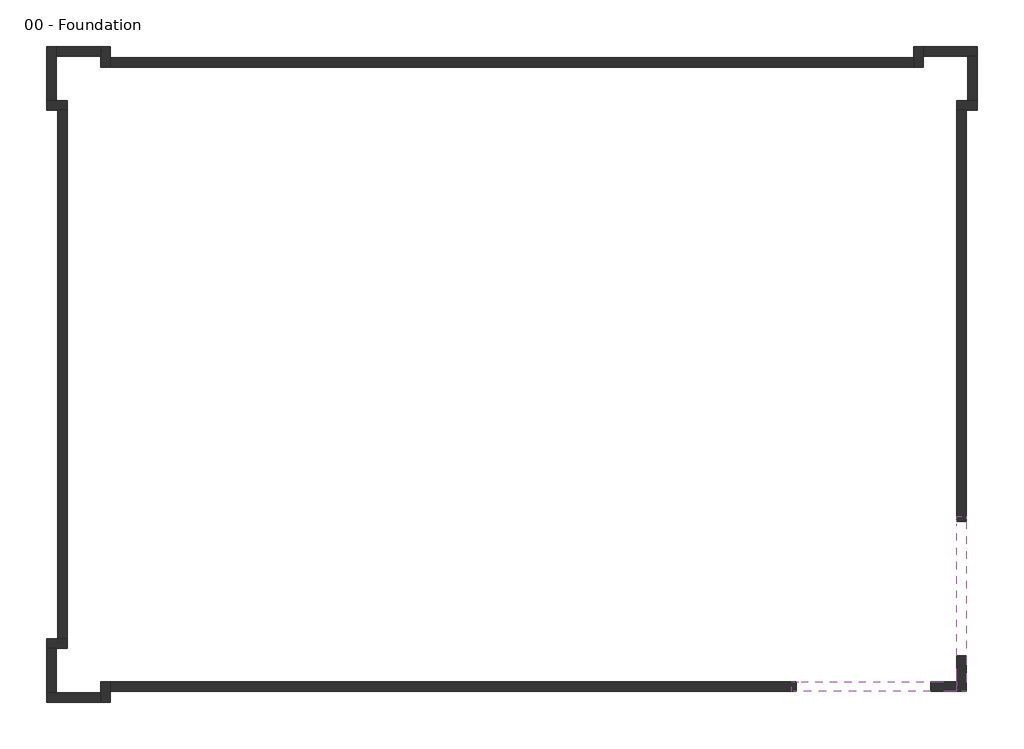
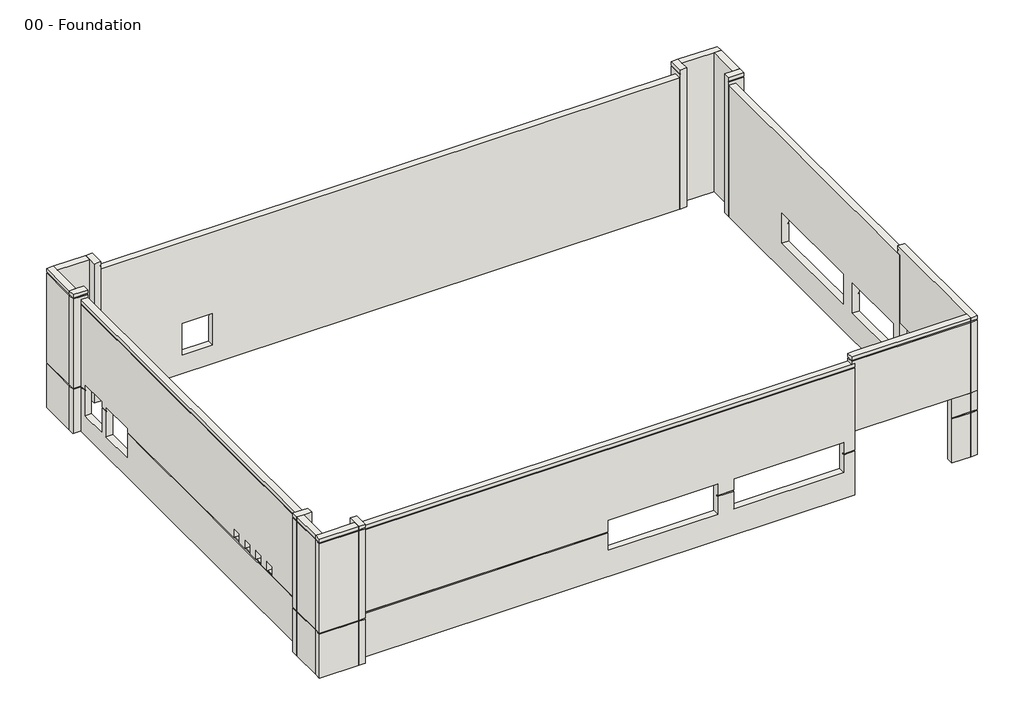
# One storey: 20 walls.
"""IFC4 building model written with IfcOpenShell, lengths in millimetres."""

import ifcopenshell
import ifcopenshell.guid

model = None  # the IFC model being written
_history = None  # IfcOwnerHistory: only IFC2X3 demands one
_inside = {}  # id of a spatial element -> (the spatial element, [elements in it])
_under = {}  # id of a project, library or spatial element -> (it, [spatial elements below it])
_declared = {}  # id of a project -> (the project, [libraries it declares])
_typed = {}  # id of a type object -> (the type object, [elements of that type])
_made_of = {}  # id of a material, layer set ... -> (it, [elements and type objects made of it])


def new_model(schema):
    """Start an empty IFC model of exactly this schema.

    Asked for "IFC4X3", IfcOpenShell would pick the latest addendum, in which some entities
    have other attributes; the version numbers below select the first issue.
    IFC2X3 requires an IfcOwnerHistory on every rooted entity: one is made here for all.
    """
    global model, _history
    if schema == "IFC4X3":
        model = ifcopenshell.file(schema_version=(4, 3, 0, 0))
    else:
        model = ifcopenshell.file(schema=schema)
    _inside.clear()
    _under.clear()
    _declared.clear()
    _typed.clear()
    _made_of.clear()
    _history = None
    if model.schema == "IFC2X3":
        org = make("IfcOrganization", Name="unknown")
        user = make(
            "IfcPersonAndOrganization",
            ThePerson=make("IfcPerson", FamilyName="unknown"),
            TheOrganization=org,
        )
        app = make(
            "IfcApplication",
            ApplicationDeveloper=org,
            Version="unknown",
            ApplicationFullName="unknown",
            ApplicationIdentifier="unknown",
        )
        _history = make(
            "IfcOwnerHistory",
            OwningUser=user,
            OwningApplication=app,
            ChangeAction="ADDED",
            CreationDate=0,
        )
    return model


def make(cls, **values):
    """One entity of the class cls with the attributes given. An attribute that is None is left unset."""
    return model.create_entity(
        cls, **{name: value for name, value in values.items() if value is not None}
    )


def rooted(cls, **values):
    """An entity with a GlobalId (a new one), such as an element, a storey or a relation."""
    return make(cls, GlobalId=ifcopenshell.guid.new(), OwnerHistory=_history, **values)


def si_unit(unit_type, name, prefix=None):
    """IfcSIUnit, for example si_unit("LENGTHUNIT", "METRE", prefix="MILLI")."""
    return make("IfcSIUnit", UnitType=unit_type, Prefix=prefix, Name=name)


def assignment(units):
    """IfcUnitAssignment: the units of a project."""
    return None if units is None else make("IfcUnitAssignment", Units=units)


def point(xyz):
    """IfcCartesianPoint."""
    return None if xyz is None else make("IfcCartesianPoint", Coordinates=xyz)


def direction(xyz):
    """IfcDirection."""
    return None if xyz is None else make("IfcDirection", DirectionRatios=xyz)


def frame(location, z_axis=None, x_axis=None):
    """IfcAxis2Placement3D, a coordinate frame: its origin and axes. An axis left out is left unset."""
    return make(
        "IfcAxis2Placement3D",
        Location=point(location),
        Axis=direction(z_axis),
        RefDirection=direction(x_axis),
    )


def origin():
    """The frame at (0, 0, 0) with its axes left unset."""
    return frame((0.0, 0.0, 0.0))


def place(relative_to, where):
    """IfcLocalPlacement: puts the frame where relative to a parent placement (None: the world)."""
    return make(
        "IfcLocalPlacement", PlacementRelTo=relative_to, RelativePlacement=where
    )


def context(
    kind, dimensions, precision=None, world=None, true_north=None, identifier=None
):
    """IfcGeometricRepresentationContext, for example the 3D "Model" context."""
    return make(
        "IfcGeometricRepresentationContext",
        ContextIdentifier=identifier,
        ContextType=kind,
        CoordinateSpaceDimension=dimensions,
        Precision=precision,
        WorldCoordinateSystem=world,
        TrueNorth=true_north,
    )


def project(units=None, contexts=None):
    """IfcProject with its units and contexts."""
    return rooted(
        "IfcProject",
        Name="project",
        RepresentationContexts=contexts,
        UnitsInContext=assignment(units),
    )


def spatial(cls, under=None, at=None, **own):
    """A site, building, storey or space (cls), placed at a placement, below another one or the project."""
    s = rooted(cls, ObjectPlacement=at, **own)
    if under is not None:
        _under.setdefault(under.id(), (under, []))[1].append(s)
    return s


def polyline(points):
    """IfcPolyline through the points."""
    return make("IfcPolyline", Points=[point(p) for p in points])


def outline(outer, holes=None, kind="AREA"):
    """IfcArbitraryClosedProfileDef: a profile drawn as a closed curve; with holes, ...WithVoids."""
    if holes is None:
        return make("IfcArbitraryClosedProfileDef", ProfileType=kind, OuterCurve=outer)
    return make(
        "IfcArbitraryProfileDefWithVoids",
        ProfileType=kind,
        OuterCurve=outer,
        InnerCurves=holes,
    )


def extrude(swept, where, along, depth):
    """IfcExtrudedAreaSolid: the profile swept, set in the frame where, extruded along a direction by depth."""
    return make(
        "IfcExtrudedAreaSolid",
        SweptArea=swept,
        Position=where,
        ExtrudedDirection=direction(along),
        Depth=depth,
    )


def faces_of(points, faces, orient=None, outer=None):
    """IfcFace entities. A face is a list of loops; a loop is a list of indices into points, from 0.

    orient and outer hold one flag for each loop. By default every Orientation is true, the
    first loop of a face is its IfcFaceOuterBound and the others are IfcFaceBound.
    """
    made = []
    for i, loops in enumerate(faces):
        bounds = []
        for j, loop in enumerate(loops):
            is_outer = j == 0 if outer is None else outer[i][j]
            bounds.append(
                make(
                    "IfcFaceOuterBound" if is_outer else "IfcFaceBound",
                    Bound=make("IfcPolyLoop", Polygon=[points[k] for k in loop]),
                    Orientation=True if orient is None else orient[i][j],
                )
            )
        made.append(make("IfcFace", Bounds=bounds))
    return made


def faceted_brep(points, faces, orient=None, outer=None, voids=None):
    """IfcFacetedBrep: a solid bounded by flat faces; with voids (closed shells), ...WithVoids."""
    shared = [point(p) for p in points]
    hull = make("IfcClosedShell", CfsFaces=faces_of(shared, faces, orient, outer))
    if voids is None:
        return make("IfcFacetedBrep", Outer=hull)
    return make(
        "IfcFacetedBrepWithVoids",
        Outer=hull,
        Voids=[
            make(cls, CfsFaces=faces_of(shared, fs, o, b)) for cls, fs, o, b in voids
        ],
    )


def shape(context_of_items, identifier, shape_type, items):
    """IfcShapeRepresentation: the items that make up one representation, for example the "Body"."""
    return make(
        "IfcShapeRepresentation",
        ContextOfItems=context_of_items,
        RepresentationIdentifier=identifier,
        RepresentationType=shape_type,
        Items=items,
    )


def made_of(thing, what):
    """Note that an element or type object is made of a material, layer set ...; save() writes the relation."""
    if what is not None:
        _made_of.setdefault(what.id(), (what, []))[1].append(thing)
    return thing


def element(
    cls,
    number,
    at=None,
    inside=None,
    cuts=None,
    type_object=None,
    material=None,
    context=None,
    identifier="Body",
    shape_type=None,
    held_by="IfcProductDefinitionShape",
    body=None,
    shapes=None,
    **own,
):
    """One element of the class cls, such as IfcWall. Its Tag is "e" and its number.

    at: its placement. inside: the storey or other place that contains it. cuts: it is an
    opening in that element (IfcRelVoidsElement). A single representation is given by context,
    identifier, shape_type and body (its items); several are given by shapes. held_by: the class
    of the entity that holds the representations. save() writes the other relations.
    """
    e = rooted(cls, Tag="e%d" % number, ObjectPlacement=at, **own)
    if body is not None:
        shapes = [shape(context, identifier, shape_type, body)]
    if shapes is not None:
        e.Representation = make(held_by, Representations=shapes)
    if inside is not None:
        _inside.setdefault(inside.id(), (inside, []))[1].append(e)
    if cuts is not None:
        rooted(
            "IfcRelVoidsElement", RelatingBuildingElement=cuts, RelatedOpeningElement=e
        )
    if type_object is not None:
        _typed.setdefault(type_object.id(), (type_object, []))[1].append(e)
    return made_of(e, material)


def aggregate(whole, parts):
    """IfcRelAggregates: a whole, such as a stair, and the parts it consists of."""
    return rooted("IfcRelAggregates", RelatingObject=whole, RelatedObjects=parts)


def save(model, path):
    """Write the relations noted so far, then the file.

    IfcRelAggregates (storeys below a building ...), IfcRelContainedInSpatialStructure (elements
    in a storey), IfcRelDefinesByType, IfcRelAssociatesMaterial and IfcRelDeclares: one each for
    every whole, place, type object, material and project.
    """
    for whole, parts in _under.values():
        aggregate(whole, parts)
    for where, things in _inside.values():
        rooted(
            "IfcRelContainedInSpatialStructure",
            RelatedElements=things,
            RelatingStructure=where,
        )
    for kind, things in _typed.values():
        rooted("IfcRelDefinesByType", RelatedObjects=things, RelatingType=kind)
    for what, things in _made_of.values():
        rooted("IfcRelAssociatesMaterial", RelatedObjects=things, RelatingMaterial=what)
    for by, libraries in _declared.values():
        rooted("IfcRelDeclares", RelatingContext=by, RelatedDefinitions=libraries)
    model.write(path)


model = new_model("IFC4")

# Units and contexts
model_context = context("Model", 3, world=origin())
ifc_project = project(units=[si_unit("LENGTHUNIT", "METRE", prefix="MILLI")], contexts=[model_context])

# Site, building, storey
site = spatial("IfcSite", under=ifc_project)
building = spatial("IfcBuilding", under=site)
storey = spatial("IfcBuildingStorey", under=building, Name="00 - Foundation", Elevation=-1250.0)

# Walls
placement = place(None, origin())
element("IfcWall", 1, ObjectType="Exterior - Render on Brick on Block @ Entry", at=placement, inside=storey, context=model_context, shape_type="Brep", body=[
    faceted_brep([(18351.5272279, -6696.4313057, 3000.0), (18351.5272279, -12792.4313057, 3000.0), (18351.5272279, -13977.9313057, 3000.0), (18351.5272279, -14406.9313057, 3000.0), (18351.5272279, -14406.9313057, 7700.0), (18351.5272279, -14331.9313057, 7700.0), (18351.5272279, -14331.9313057, 7775.0), (18351.5272279, -14406.9313057, 7775.0), (18351.5272279, -14406.9313057, 8000.0), (18351.5272279, -13977.9313057, 8000.0), (18351.5272279, -6910.9313057, 8000.0), (18351.5272279, -6481.9313057, 8000.0), (18351.5272279, -6481.9313057, 7775.0), (18351.5272279, -6556.9313057, 7775.0), (18351.5272279, -6556.9313057, 7700.0), (18351.5272279, -6481.9313057, 7700.0), (18351.5272279, -6481.9313057, 7500.0), (18351.5272279, -6696.4313057, 7500.0), (18780.5272279, -6481.9313057, 8000.0), (18780.5272279, -14406.9313057, 8000.0), (18780.5272279, -14406.9313057, 7775.0), (18780.5272279, -6481.9313057, 7775.0), (18780.5272279, -14406.9313057, 3000.0), (18780.5272279, -12792.4313057, 3000.0), (18780.5272279, -6696.4313057, 3000.0), (18780.5272279, -6696.4313057, 7200.0), (18780.5272279, -6696.4313057, 7275.0), (18780.5272279, -6696.4313057, 7500.0), (18780.5272279, -6481.9313057, 7500.0), (18780.5272279, -6481.9313057, 7700.0), (18780.5272279, -14406.9313057, 7700.0), (18705.5272279, -6556.9313057, 7700.0), (18705.5272279, -6556.9313057, 7775.0), (18705.5272279, -14331.9313057, 7775.0), (18705.5272279, -14331.9313057, 7700.0)], [[[0, 1, 2, 3, 4, 5, 6, 7, 8, 9, 10, 11, 12, 13, 14, 15, 16, 17]], [[18, 19, 20, 21]], [[22, 23, 24, 25, 26, 27, 28, 29, 30]], [[3, 2, 1, 0, 24, 23, 22]], [[11, 10, 9, 8, 19, 18]], [[31, 32, 33, 34]], [[19, 8, 7, 20]], [[3, 22, 30, 4]], [[33, 32, 13, 12, 21, 20, 7, 6]], [[31, 34, 5, 4, 30, 29, 15, 14]], [[32, 31, 14, 13]], [[34, 33, 6, 5]], [[24, 0, 17, 27, 26, 25]], [[28, 27, 17, 16]], [[11, 18, 21, 12]], [[28, 16, 15, 29]]]),
])
element("IfcWall", 2, ObjectType="Exterior - Render on Brick on Block @ Entry", at=placement, inside=storey, context=model_context, shape_type="Brep", body=[
    faceted_brep([(18351.5272279, -13977.9313057, 3000.0), (17166.0272279, -13977.9313057, 3000.0), (11070.0272279, -13977.9313057, 3000.0), (11070.0272279, -13977.9313057, 7500.0), (10855.5272279, -13977.9313057, 7500.0), (10855.5272279, -13977.9313057, 7700.0), (10930.5272279, -13977.9313057, 7700.0), (10930.5272279, -13977.9313057, 7775.0), (10855.5272279, -13977.9313057, 7775.0), (10855.5272279, -13977.9313057, 8000.0), (11284.5272279, -13977.9313057, 8000.0), (18351.5272279, -13977.9313057, 8000.0), (18351.5272279, -14406.9313057, 8000.0), (10855.5272279, -14406.9313057, 8000.0), (10855.5272279, -14406.9313057, 7775.0), (18351.5272279, -14406.9313057, 7775.0), (11070.0272279, -14406.9313057, 3000.0), (17166.0272279, -14406.9313057, 3000.0), (18351.5272279, -14406.9313057, 3000.0), (18351.5272279, -14406.9313057, 7700.0), (10855.5272279, -14406.9313057, 7700.0), (10855.5272279, -14406.9313057, 7500.0), (11070.0272279, -14406.9313057, 7500.0), (11070.0272279, -14406.9313057, 7275.0), (11070.0272279, -14406.9313057, 7200.0), (18351.5272279, -14331.9313057, 7700.0), (18351.5272279, -14331.9313057, 7775.0), (10930.5272279, -14331.9313057, 7775.0), (10930.5272279, -14331.9313057, 7700.0)], [[[0, 1, 2, 3, 4, 5, 6, 7, 8, 9, 10, 11]], [[12, 13, 14, 15]], [[16, 17, 18, 19, 20, 21, 22, 23, 24]], [[2, 1, 0, 18, 17, 16]], [[11, 10, 9, 13, 12]], [[25, 26, 27, 28]], [[0, 11, 12, 15, 26, 25, 19, 18]], [[15, 14, 8, 7, 27, 26]], [[20, 19, 25, 28, 6, 5]], [[2, 16, 24, 23, 22, 3]], [[4, 3, 22, 21]], [[4, 21, 20, 5]], [[13, 9, 8, 14]], [[28, 27, 7, 6]]]),
])
element("IfcWall", 3, ObjectType="Exterior - Render on Brick on Block", at=placement, inside=storey, context=model_context, shape_type="Brep", body=[
    faceted_brep([(11070.0272279, -13977.9313057, -1250.0), (-20031.4727721, -13977.9313057, -1250.0), (-20031.4727721, -13977.9313057, 7500.0), (10855.5272279, -13977.9313057, 7500.0), (11070.0272279, -13977.9313057, 7500.0), (11070.0272279, -13977.9313057, 3000.0), (-4494.4727721, -13977.9313057, 2500.0), (-4494.4727721, -13977.9313057, 500.0), (2430.5272279, -13977.9313057, 500.0), (2430.5272279, -13977.9313057, 2500.0), (10355.5272279, -13977.9313057, 500.0), (10355.5272279, -13977.9313057, 2500.0), (3430.5272279, -13977.9313057, 2500.0), (3430.5272279, -13977.9313057, 500.0), (11070.0272279, -14406.9313057, 7500.0), (-20031.4727721, -14406.9313057, 7500.0), (-20031.4727721, -14406.9313057, 7275.0), (11070.0272279, -14406.9313057, 7275.0), (-20031.4727721, -14406.9313057, -1250.0), (11070.0272279, -14406.9313057, -1250.0), (11070.0272279, -14406.9313057, 1675.0), (10355.5272279, -14406.9313057, 1675.0), (10355.5272279, -14406.9313057, 500.0), (3430.5272279, -14406.9313057, 500.0), (3430.5272279, -14406.9313057, 1675.0), (2430.5272279, -14406.9313057, 1675.0), (2430.5272279, -14406.9313057, 500.0), (-4494.4727721, -14406.9313057, 500.0), (-4494.4727721, -14406.9313057, 1675.0), (-20031.4727721, -14406.9313057, 1675.0), (-20031.4727721, -14406.9313057, 1750.0), (-4494.4727721, -14406.9313057, 1750.0), (-4494.4727721, -14406.9313057, 2500.0), (2430.5272279, -14406.9313057, 2500.0), (2430.5272279, -14406.9313057, 1750.0), (3430.5272279, -14406.9313057, 1750.0), (3430.5272279, -14406.9313057, 2500.0), (10355.5272279, -14406.9313057, 2500.0), (10355.5272279, -14406.9313057, 1750.0), (11070.0272279, -14406.9313057, 1750.0), (11070.0272279, -14406.9313057, 7200.0), (-20031.4727721, -14406.9313057, 7200.0), (11070.0272279, -14331.9313057, 7275.0), (11070.0272279, -14331.9313057, 7200.0), (11070.0272279, -14331.9313057, 1750.0), (11070.0272279, -14331.9313057, 1675.0), (11070.0272279, -14381.9313057, -1250.0), (-20031.4727721, -14381.9313057, -1250.0), (-20031.4727721, -14331.9313057, 1750.0), (-4494.4727721, -14331.9313057, 1750.0), (-4494.4727721, -14331.9313057, 1675.0), (-20031.4727721, -14331.9313057, 1675.0), (-20031.4727721, -14331.9313057, 7275.0), (-20031.4727721, -14331.9313057, 7200.0), (2430.5272279, -14331.9313057, 1675.0), (2430.5272279, -14331.9313057, 1750.0), (3430.5272279, -14331.9313057, 1750.0), (3430.5272279, -14331.9313057, 1675.0), (10355.5272279, -14331.9313057, 1675.0), (10355.5272279, -14331.9313057, 1750.0)], [[[0, 1, 2, 3, 4, 5], [6, 7, 8, 9], [10, 11, 12, 13]], [[14, 15, 16, 17]], [[18, 19, 20, 21, 22, 23, 24, 25, 26, 27, 28, 29]], [[30, 31, 32, 33, 34, 35, 36, 37, 38, 39, 40, 41]], [[4, 3, 2, 15, 14]], [[0, 5, 4, 14, 17, 42, 43, 40, 39, 44, 45, 20, 19, 46]], [[1, 0, 46, 47]], [[46, 19, 18, 47]], [[31, 30, 48, 49]], [[29, 28, 50, 51]], [[49, 48, 51, 50]], [[52, 42, 17, 16]], [[43, 53, 41, 40]], [[42, 52, 53, 43]], [[2, 1, 47, 18, 29, 51, 48, 30, 41, 53, 52, 16, 15]], [[27, 7, 6, 32, 31, 49, 50, 28]], [[32, 6, 9, 33]], [[33, 9, 8, 26, 25, 54, 55, 34]], [[7, 27, 26, 8]], [[55, 56, 35, 34]], [[57, 54, 25, 24]], [[56, 55, 54, 57]], [[10, 22, 21, 58, 59, 38, 37, 11]], [[11, 37, 36, 12]], [[12, 36, 35, 56, 57, 24, 23, 13]], [[22, 10, 13, 23]], [[59, 44, 39, 38]], [[45, 58, 21, 20]], [[44, 59, 58, 45]]]),
])
element("IfcWall", 4, ObjectType="Exterior - Render on Brick on Block", at=placement, inside=storey, context=model_context, shape_type="Brep", body=[
    faceted_brep([(-20460.4727721, -13977.9313057, -1250.0), (-20460.4727721, -14477.7313057, -1250.0), (-20460.4727721, -14906.7313057, -1250.0), (-20460.4727721, -14906.7313057, 1675.0), (-20460.4727721, -14831.7313057, 1675.0), (-20460.4727721, -14831.7313057, 1750.0), (-20460.4727721, -14906.7313057, 1750.0), (-20460.4727721, -14906.7313057, 7700.0), (-20460.4727721, -14831.7313057, 7700.0), (-20460.4727721, -14831.7313057, 7775.0), (-20460.4727721, -14906.7313057, 7775.0), (-20460.4727721, -14906.7313057, 8000.0), (-20460.4727721, -14477.7313057, 8000.0), (-20460.4727721, -13977.9313057, 8000.0), (-20031.4727721, -13977.9313057, 8000.0), (-20031.4727721, -14906.7313057, 8000.0), (-20031.4727721, -14906.7313057, 7775.0), (-20031.4727721, -13977.9313057, 7775.0), (-20031.4727721, -14906.7313057, -1250.0), (-20031.4727721, -14406.9313057, -1250.0), (-20031.4727721, -13977.9313057, -1250.0), (-20031.4727721, -13977.9313057, 7500.0), (-20031.4727721, -13977.9313057, 7700.0), (-20031.4727721, -14906.7313057, 7700.0), (-20031.4727721, -14906.7313057, 1750.0), (-20031.4727721, -14406.9313057, 1750.0), (-20031.4727721, -14331.9313057, 1750.0), (-20031.4727721, -14331.9313057, 1675.0), (-20031.4727721, -14406.9313057, 1675.0), (-20031.4727721, -14906.7313057, 1675.0), (-20056.4727721, -13977.9313057, -1250.0), (-20056.4727721, -14906.7313057, -1250.0), (-20106.4727721, -14331.9313057, 1675.0), (-20106.4727721, -14331.9313057, 1750.0), (-20106.4727721, -14831.7313057, 1750.0), (-20106.4727721, -14831.7313057, 1675.0), (-20106.4727721, -14831.7313057, 7775.0), (-20106.4727721, -13977.9313057, 7775.0), (-20106.4727721, -13977.9313057, 7700.0), (-20106.4727721, -14831.7313057, 7700.0)], [[[0, 1, 2, 3, 4, 5, 6, 7, 8, 9, 10, 11, 12, 13]], [[14, 15, 16, 17]], [[18, 19, 20, 21, 22, 23, 24, 25, 26, 27, 28, 29]], [[13, 12, 11, 15, 14]], [[2, 1, 0, 30, 31]], [[32, 33, 34, 35]], [[36, 37, 17, 16, 10, 9]], [[38, 39, 8, 7, 23, 22]], [[37, 36, 39, 38]], [[0, 13, 14, 17, 37, 38, 22, 21, 20, 30]], [[20, 19, 18, 31, 30]], [[34, 33, 26, 25, 24, 6, 5]], [[32, 35, 4, 3, 29, 28, 27]], [[33, 32, 27, 26]], [[15, 11, 10, 16]], [[2, 31, 18, 29, 3]], [[6, 24, 23, 7]], [[35, 34, 5, 4]], [[39, 36, 9, 8]]]),
])
element("IfcWall", 5, ObjectType="Exterior - Render on Brick on Block", at=placement, inside=storey, context=model_context, shape_type="Brep", body=[
    faceted_brep([(-20460.4727721, -14477.7313057, -1250.0), (-22490.4727721, -14477.7313057, -1250.0), (-22919.4727721, -14477.7313057, -1250.0), (-22919.4727721, -14477.7313057, 1675.0), (-22844.4727721, -14477.7313057, 1675.0), (-22844.4727721, -14477.7313057, 1750.0), (-22919.4727721, -14477.7313057, 1750.0), (-22919.4727721, -14477.7313057, 7700.0), (-22844.4727721, -14477.7313057, 7700.0), (-22844.4727721, -14477.7313057, 7775.0), (-22919.4727721, -14477.7313057, 7775.0), (-22919.4727721, -14477.7313057, 8000.0), (-22490.4727721, -14477.7313057, 8000.0), (-20460.4727721, -14477.7313057, 8000.0), (-20460.4727721, -14906.7313057, 8000.0), (-22919.4727721, -14906.7313057, 8000.0), (-22919.4727721, -14906.7313057, 7775.0), (-20460.4727721, -14906.7313057, 7775.0), (-22919.4727721, -14906.7313057, -1250.0), (-20460.4727721, -14906.7313057, -1250.0), (-20460.4727721, -14906.7313057, 1675.0), (-22919.4727721, -14906.7313057, 1675.0), (-22919.4727721, -14906.7313057, 1750.0), (-20460.4727721, -14906.7313057, 1750.0), (-20460.4727721, -14906.7313057, 7700.0), (-22919.4727721, -14906.7313057, 7700.0), (-20460.4727721, -14881.7313057, -1250.0), (-22919.4727721, -14881.7313057, -1250.0), (-22844.4727721, -14831.7313057, 1675.0), (-20460.4727721, -14831.7313057, 1675.0), (-20460.4727721, -14831.7313057, 1750.0), (-22844.4727721, -14831.7313057, 1750.0), (-22844.4727721, -14831.7313057, 7775.0), (-22844.4727721, -14831.7313057, 7700.0), (-20460.4727721, -14831.7313057, 7700.0), (-20460.4727721, -14831.7313057, 7775.0)], [[[0, 1, 2, 3, 4, 5, 6, 7, 8, 9, 10, 11, 12, 13]], [[14, 15, 16, 17]], [[18, 19, 20, 21]], [[22, 23, 24, 25]], [[13, 12, 11, 15, 14]], [[2, 1, 0, 26, 27]], [[28, 29, 30, 31]], [[32, 33, 34, 35]], [[0, 13, 14, 17, 35, 34, 24, 23, 30, 29, 20, 19, 26]], [[19, 18, 27, 26]], [[31, 30, 23, 22, 6, 5]], [[29, 28, 4, 3, 21, 20]], [[9, 32, 35, 17, 16, 10]], [[34, 33, 8, 7, 25, 24]], [[15, 11, 10, 16]], [[2, 27, 18, 21, 3]], [[6, 22, 25, 7]], [[28, 31, 5, 4]], [[33, 32, 9, 8]]]),
])
element("IfcWall", 6, ObjectType="Exterior - Render on Brick on Block", at=placement, inside=storey, context=model_context, shape_type="SweptSolid", body=[
    extrude(outline(polyline([(-1250.0, -22490.4727721), (8000.0, -22490.4727721), (8000.0, -22919.4727721), (7775.0, -22919.4727721), (7775.0, -22844.4727721), (7700.0, -22844.4727721), (7700.0, -22919.4727721), (1750.0, -22919.4727721), (1750.0, -22844.4727721), (1675.0, -22844.4727721), (1675.0, -22919.4727721), (-1250.0, -22919.4727721), (-1250.0, -22894.4727721), (-1250.0, -22490.4727721)])), frame((0.0, -14477.7313057, 0.0), z_axis=(0.0, 1.0, 0.0), x_axis=(0.0, 0.0, 1.0)), (0.0, 0.0, 1.0), 2030.0),
])
element("IfcWall", 7, ObjectType="Exterior - Render on Brick on Block", at=placement, inside=storey, context=model_context, shape_type="Brep", body=[
    faceted_brep([(-22919.4727721, -12447.7313057, -1250.0), (-22490.4727721, -12447.7313057, -1250.0), (-21990.4727721, -12447.7313057, -1250.0), (-21990.4727721, -12447.7313057, 8000.0), (-22490.4727721, -12447.7313057, 8000.0), (-22919.4727721, -12447.7313057, 8000.0), (-22919.4727721, -12447.7313057, 7775.0), (-22844.4727721, -12447.7313057, 7775.0), (-22844.4727721, -12447.7313057, 7700.0), (-22919.4727721, -12447.7313057, 7700.0), (-22919.4727721, -12447.7313057, 1750.0), (-22844.4727721, -12447.7313057, 1750.0), (-22844.4727721, -12447.7313057, 1675.0), (-22919.4727721, -12447.7313057, 1675.0), (-22919.4727721, -12018.7313057, 8000.0), (-21990.4727721, -12018.7313057, 8000.0), (-21990.4727721, -12018.7313057, 7775.0), (-22919.4727721, -12018.7313057, 7775.0), (-21990.4727721, -12018.7313057, -1250.0), (-22419.4727721, -12018.7313057, -1250.0), (-22919.4727721, -12018.7313057, -1250.0), (-22919.4727721, -12018.7313057, 1675.0), (-22419.4727721, -12018.7313057, 1675.0), (-22344.4727721, -12018.7313057, 1675.0), (-22344.4727721, -12018.7313057, 1750.0), (-22419.4727721, -12018.7313057, 1750.0), (-22919.4727721, -12018.7313057, 1750.0), (-22919.4727721, -12018.7313057, 7700.0), (-21990.4727721, -12018.7313057, 7700.0), (-21990.4727721, -12018.7313057, 7500.0), (-22919.4727721, -12043.7313057, -1250.0), (-21990.4727721, -12043.7313057, -1250.0), (-22844.4727721, -12093.7313057, 1675.0), (-22844.4727721, -12093.7313057, 1750.0), (-22344.4727721, -12093.7313057, 1750.0), (-22344.4727721, -12093.7313057, 1675.0), (-22844.4727721, -12093.7313057, 7775.0), (-21990.4727721, -12093.7313057, 7775.0), (-21990.4727721, -12093.7313057, 7700.0), (-22844.4727721, -12093.7313057, 7700.0)], [[[0, 1, 2, 3, 4, 5, 6, 7, 8, 9, 10, 11, 12, 13]], [[14, 15, 16, 17]], [[18, 19, 20, 21, 22, 23, 24, 25, 26, 27, 28, 29]], [[5, 4, 3, 15, 14]], [[2, 1, 0, 30, 31]], [[32, 33, 34, 35]], [[36, 37, 38, 39]], [[5, 14, 17, 6]], [[30, 0, 13, 21, 20]], [[26, 10, 9, 27]], [[20, 19, 18, 31, 30]], [[34, 33, 11, 10, 26, 25, 24]], [[32, 35, 23, 22, 21, 13, 12]], [[33, 32, 12, 11]], [[37, 36, 7, 6, 17, 16]], [[39, 38, 28, 27, 9, 8]], [[36, 39, 8, 7]], [[3, 2, 31, 18, 29, 28, 38, 37, 16, 15]], [[35, 34, 24, 23]]]),
])
element("IfcWall", 8, ObjectType="Exterior - Render on Brick on Block", at=placement, inside=storey, context=model_context, shape_type="Brep", body=[
    faceted_brep([(-21990.4727721, -12018.7313057, -1250.0), (-21990.4727721, 11955.0686943, -1250.0), (-21990.4727721, 11955.0686943, 7500.0), (-21990.4727721, -12018.7313057, 7500.0), (-21990.4727721, 9255.0686943, 2000.0), (-21990.4727721, 9255.0686943, 0.0), (-21990.4727721, 6855.0686943, 0.0), (-21990.4727721, 6855.0686943, 2000.0), (-21990.4727721, 9655.0686943, 2100.0), (-21990.4727721, 11555.0686943, 2100.0), (-21990.4727721, 11555.0686943, 0.0), (-21990.4727721, 9655.0686943, 0.0), (-21990.4727721, -5291.1813057, 1750.0), (-21990.4727721, -5291.1813057, 2360.0), (-21990.4727721, -4681.1813057, 2360.0), (-21990.4727721, -4681.1813057, 1750.0), (-21990.4727721, -6501.1813057, 1750.0), (-21990.4727721, -6501.1813057, 2360.0), (-21990.4727721, -5891.1813057, 2360.0), (-21990.4727721, -5891.1813057, 1750.0), (-21990.4727721, -7711.1813057, 1750.0), (-21990.4727721, -7711.1813057, 2360.0), (-21990.4727721, -7101.1813057, 2360.0), (-21990.4727721, -7101.1813057, 1750.0), (-21990.4727721, -8921.1813057, 1750.0), (-21990.4727721, -8921.1813057, 2360.0), (-21990.4727721, -8311.1813057, 2360.0), (-21990.4727721, -8311.1813057, 1750.0), (-22419.4727721, -12018.7313057, 7500.0), (-22419.4727721, 11955.0686943, 7500.0), (-22419.4727721, 11955.0686943, 7275.0), (-22419.4727721, -12018.7313057, 7275.0), (-22419.4727721, 11955.0686943, -1250.0), (-22419.4727721, -12018.7313057, -1250.0), (-22419.4727721, -12018.7313057, 1675.0), (-22419.4727721, 6855.0686943, 1675.0), (-22419.4727721, 6855.0686943, 0.0), (-22419.4727721, 9255.0686943, 0.0), (-22419.4727721, 9255.0686943, 1675.0), (-22419.4727721, 9655.0686943, 1675.0), (-22419.4727721, 9655.0686943, 0.0), (-22419.4727721, 11555.0686943, 0.0), (-22419.4727721, 11555.0686943, 1675.0), (-22419.4727721, 11955.0686943, 1675.0), (-22419.4727721, 11955.0686943, 1750.0), (-22419.4727721, 11555.0686943, 1750.0), (-22419.4727721, 11555.0686943, 2100.0), (-22419.4727721, 9655.0686943, 2100.0), (-22419.4727721, 9655.0686943, 1750.0), (-22419.4727721, 9255.0686943, 1750.0), (-22419.4727721, 9255.0686943, 2000.0), (-22419.4727721, 6855.0686943, 2000.0), (-22419.4727721, 6855.0686943, 1750.0), (-22419.4727721, -4681.1813057, 1750.0), (-22419.4727721, -4681.1813057, 2360.0), (-22419.4727721, -5291.1813057, 2360.0), (-22419.4727721, -5291.1813057, 1750.0), (-22419.4727721, -5891.1813057, 1750.0), (-22419.4727721, -5891.1813057, 2360.0), (-22419.4727721, -6501.1813057, 2360.0), (-22419.4727721, -6501.1813057, 1750.0), (-22419.4727721, -7101.1813057, 1750.0), (-22419.4727721, -7101.1813057, 2360.0), (-22419.4727721, -7711.1813057, 2360.0), (-22419.4727721, -7711.1813057, 1750.0), (-22419.4727721, -8311.1813057, 1750.0), (-22419.4727721, -8311.1813057, 2360.0), (-22419.4727721, -8921.1813057, 2360.0), (-22419.4727721, -8921.1813057, 1750.0), (-22419.4727721, -12018.7313057, 1750.0), (-22419.4727721, -12018.7313057, 7200.0), (-22419.4727721, 11955.0686943, 7200.0), (-22394.4727721, -12018.7313057, -1250.0), (-22394.4727721, 11955.0686943, -1250.0), (-22344.4727721, 11955.0686943, 1750.0), (-22344.4727721, 11555.0686943, 1750.0), (-22344.4727721, 11555.0686943, 1675.0), (-22344.4727721, 11955.0686943, 1675.0), (-22344.4727721, 11955.0686943, 7275.0), (-22344.4727721, -12018.7313057, 7275.0), (-22344.4727721, -12018.7313057, 7200.0), (-22344.4727721, 11955.0686943, 7200.0), (-22344.4727721, -12018.7313057, 1750.0), (-22344.4727721, -12018.7313057, 1675.0), (-22344.4727721, -8921.1813057, 1750.0), (-22344.4727721, 6855.0686943, 1750.0), (-22344.4727721, -4681.1813057, 1750.0), (-22344.4727721, -5291.1813057, 1750.0), (-22344.4727721, -5891.1813057, 1750.0), (-22344.4727721, -6501.1813057, 1750.0), (-22344.4727721, -7101.1813057, 1750.0), (-22344.4727721, -7711.1813057, 1750.0), (-22344.4727721, -8311.1813057, 1750.0), (-22344.4727721, 6855.0686943, 1675.0), (-22344.4727721, 9255.0686943, 1750.0), (-22344.4727721, 9255.0686943, 1675.0), (-22344.4727721, 9655.0686943, 1750.0), (-22344.4727721, 9655.0686943, 1675.0)], [[[0, 1, 2, 3], [4, 5, 6, 7], [8, 9, 10, 11], [12, 13, 14, 15], [16, 17, 18, 19], [20, 21, 22, 23], [24, 25, 26, 27]], [[28, 29, 30, 31]], [[32, 33, 34, 35, 36, 37, 38, 39, 40, 41, 42, 43]], [[44, 45, 46, 47, 48, 49, 50, 51, 52, 53, 54, 55, 56, 57, 58, 59, 60, 61, 62, 63, 64, 65, 66, 67, 68, 69, 70, 71]], [[3, 2, 29, 28]], [[1, 0, 72, 73]], [[45, 44, 74, 75]], [[43, 42, 76, 77]], [[77, 76, 75, 74]], [[78, 79, 31, 30]], [[80, 81, 71, 70]], [[79, 78, 81, 80]], [[0, 3, 28, 31, 79, 80, 70, 69, 82, 83, 34, 33, 72]], [[33, 32, 73, 72]], [[69, 68, 84, 82]], [[52, 85, 86, 53]], [[57, 56, 87, 88]], [[61, 60, 89, 90]], [[65, 64, 91, 92]], [[35, 34, 83, 93]], [[2, 1, 73, 32, 43, 77, 74, 44, 71, 81, 78, 30, 29]], [[5, 4, 50, 49, 94, 95, 38, 37]], [[51, 50, 4, 7]], [[7, 6, 36, 35, 93, 85, 52, 51]], [[37, 36, 6, 5]], [[94, 96, 97, 95]], [[96, 94, 49, 48]], [[95, 97, 39, 38]], [[8, 47, 46, 9]], [[47, 8, 11, 40, 39, 97, 96, 48]], [[40, 11, 10, 41]], [[9, 46, 45, 75, 76, 42, 41, 10]], [[93, 83, 82, 84, 92, 91, 90, 89, 88, 87, 86, 85]], [[13, 12, 87, 56, 55]], [[14, 13, 55, 54]], [[15, 14, 54, 53, 86]], [[12, 15, 86, 87]], [[17, 16, 89, 60, 59]], [[18, 17, 59, 58]], [[19, 18, 58, 57, 88]], [[16, 19, 88, 89]], [[21, 20, 91, 64, 63]], [[22, 21, 63, 62]], [[23, 22, 62, 61, 90]], [[20, 23, 90, 91]], [[25, 24, 84, 68, 67]], [[26, 25, 67, 66]], [[27, 26, 66, 65, 92]], [[24, 27, 92, 84]]]),
])
element("IfcWall", 9, ObjectType="Exterior - Render on Brick on Block", at=placement, inside=storey, context=model_context, shape_type="Brep", body=[
    faceted_brep([(-21990.4727721, 12384.0686943, -1250.0), (-22490.4727721, 12384.0686943, -1250.0), (-22919.4727721, 12384.0686943, -1250.0), (-22919.4727721, 12384.0686943, 1675.0), (-22844.4727721, 12384.0686943, 1675.0), (-22844.4727721, 12384.0686943, 1750.0), (-22919.4727721, 12384.0686943, 1750.0), (-22919.4727721, 12384.0686943, 7700.0), (-22844.4727721, 12384.0686943, 7700.0), (-22844.4727721, 12384.0686943, 7775.0), (-22919.4727721, 12384.0686943, 7775.0), (-22919.4727721, 12384.0686943, 8000.0), (-22490.4727721, 12384.0686943, 8000.0), (-21990.4727721, 12384.0686943, 8000.0), (-21990.4727721, 11955.0686943, 8000.0), (-22919.4727721, 11955.0686943, 8000.0), (-22919.4727721, 11955.0686943, 7775.0), (-21990.4727721, 11955.0686943, 7775.0), (-22919.4727721, 11955.0686943, -1250.0), (-22419.4727721, 11955.0686943, -1250.0), (-21990.4727721, 11955.0686943, -1250.0), (-21990.4727721, 11955.0686943, 7500.0), (-21990.4727721, 11955.0686943, 7700.0), (-22919.4727721, 11955.0686943, 7700.0), (-22919.4727721, 11955.0686943, 1750.0), (-22419.4727721, 11955.0686943, 1750.0), (-22344.4727721, 11955.0686943, 1750.0), (-22344.4727721, 11955.0686943, 1675.0), (-22419.4727721, 11955.0686943, 1675.0), (-22919.4727721, 11955.0686943, 1675.0), (-21990.4727721, 11980.0686943, -1250.0), (-22919.4727721, 11980.0686943, -1250.0), (-22344.4727721, 12030.0686943, 1675.0), (-22344.4727721, 12030.0686943, 1750.0), (-22844.4727721, 12030.0686943, 1750.0), (-22844.4727721, 12030.0686943, 1675.0), (-22844.4727721, 12030.0686943, 7775.0), (-21990.4727721, 12030.0686943, 7775.0), (-21990.4727721, 12030.0686943, 7700.0), (-22844.4727721, 12030.0686943, 7700.0)], [[[0, 1, 2, 3, 4, 5, 6, 7, 8, 9, 10, 11, 12, 13]], [[14, 15, 16, 17]], [[18, 19, 20, 21, 22, 23, 24, 25, 26, 27, 28, 29]], [[13, 12, 11, 15, 14]], [[2, 1, 0, 30, 31]], [[32, 33, 34, 35]], [[36, 37, 17, 16, 10, 9]], [[38, 39, 8, 7, 23, 22]], [[37, 36, 39, 38]], [[0, 13, 14, 17, 37, 38, 22, 21, 20, 30]], [[20, 19, 18, 31, 30]], [[34, 33, 26, 25, 24, 6, 5]], [[32, 35, 4, 3, 29, 28, 27]], [[33, 32, 27, 26]], [[15, 11, 10, 16]], [[2, 31, 18, 29, 3]], [[6, 24, 23, 7]], [[35, 34, 5, 4]], [[39, 36, 9, 8]]]),
])
element("IfcWall", 10, ObjectType="Exterior - Render on Brick on Block", at=placement, inside=storey, context=model_context, shape_type="Brep", body=[
    faceted_brep([(-22490.4727721, 12384.0686943, -1250.0), (-22490.4727721, 14414.0686943, -1250.0), (-22490.4727721, 14843.0686943, -1250.0), (-22490.4727721, 14843.0686943, 1675.0), (-22490.4727721, 14768.0686943, 1675.0), (-22490.4727721, 14768.0686943, 1750.0), (-22490.4727721, 14843.0686943, 1750.0), (-22490.4727721, 14843.0686943, 7700.0), (-22490.4727721, 14768.0686943, 7700.0), (-22490.4727721, 14768.0686943, 7775.0), (-22490.4727721, 14843.0686943, 7775.0), (-22490.4727721, 14843.0686943, 8000.0), (-22490.4727721, 14414.0686943, 8000.0), (-22490.4727721, 12384.0686943, 8000.0), (-22919.4727721, 12384.0686943, 8000.0), (-22919.4727721, 14843.0686943, 8000.0), (-22919.4727721, 14843.0686943, 7775.0), (-22919.4727721, 12384.0686943, 7775.0), (-22919.4727721, 14843.0686943, -1250.0), (-22919.4727721, 12384.0686943, -1250.0), (-22919.4727721, 12384.0686943, 1675.0), (-22919.4727721, 14843.0686943, 1675.0), (-22919.4727721, 14843.0686943, 1750.0), (-22919.4727721, 12384.0686943, 1750.0), (-22919.4727721, 12384.0686943, 7700.0), (-22919.4727721, 14843.0686943, 7700.0), (-22894.4727721, 12384.0686943, -1250.0), (-22894.4727721, 14843.0686943, -1250.0), (-22844.4727721, 14768.0686943, 1675.0), (-22844.4727721, 12384.0686943, 1675.0), (-22844.4727721, 12384.0686943, 1750.0), (-22844.4727721, 14768.0686943, 1750.0), (-22844.4727721, 14768.0686943, 7775.0), (-22844.4727721, 14768.0686943, 7700.0), (-22844.4727721, 12384.0686943, 7700.0), (-22844.4727721, 12384.0686943, 7775.0)], [[[0, 1, 2, 3, 4, 5, 6, 7, 8, 9, 10, 11, 12, 13]], [[14, 15, 16, 17]], [[18, 19, 20, 21]], [[22, 23, 24, 25]], [[13, 12, 11, 15, 14]], [[2, 1, 0, 26, 27]], [[28, 29, 30, 31]], [[32, 33, 34, 35]], [[0, 13, 14, 17, 35, 34, 24, 23, 30, 29, 20, 19, 26]], [[19, 18, 27, 26]], [[31, 30, 23, 22, 6, 5]], [[29, 28, 4, 3, 21, 20]], [[9, 32, 35, 17, 16, 10]], [[34, 33, 8, 7, 25, 24]], [[15, 11, 10, 16]], [[2, 27, 18, 21, 3]], [[6, 22, 25, 7]], [[28, 31, 5, 4]], [[33, 32, 9, 8]]]),
])
element("IfcWall", 11, ObjectType="Exterior - Render on Brick on Block", at=placement, inside=storey, context=model_context, shape_type="SweptSolid", body=[
    extrude(outline(polyline([(14414.0686943, -1250.0), (14414.0686943, 8000.0), (14843.0686943, 8000.0), (14843.0686943, 7775.0), (14768.0686943, 7775.0), (14768.0686943, 7700.0), (14843.0686943, 7700.0), (14843.0686943, 1750.0), (14768.0686943, 1750.0), (14768.0686943, 1675.0), (14843.0686943, 1675.0), (14843.0686943, -1250.0), (14818.0686943, -1250.0), (14414.0686943, -1250.0)])), frame((-22490.4727721, 0.0, 0.0), z_axis=(1.0, 0.0, 0.0), x_axis=(0.0, 1.0, 0.0)), (0.0, 0.0, 1.0), 2030.0),
])
element("IfcWall", 12, ObjectType="Exterior - Render on Brick on Block", at=placement, inside=storey, context=model_context, shape_type="Brep", body=[
    faceted_brep([(-20460.4727721, 14843.0686943, -1250.0), (-20460.4727721, 14414.0686943, -1250.0), (-20460.4727721, 13914.0686943, -1250.0), (-20460.4727721, 13914.0686943, 8000.0), (-20460.4727721, 14414.0686943, 8000.0), (-20460.4727721, 14843.0686943, 8000.0), (-20460.4727721, 14843.0686943, 7775.0), (-20460.4727721, 14768.0686943, 7775.0), (-20460.4727721, 14768.0686943, 7700.0), (-20460.4727721, 14843.0686943, 7700.0), (-20460.4727721, 14843.0686943, 1750.0), (-20460.4727721, 14768.0686943, 1750.0), (-20460.4727721, 14768.0686943, 1675.0), (-20460.4727721, 14843.0686943, 1675.0), (-20031.4727721, 14843.0686943, 8000.0), (-20031.4727721, 13914.0686943, 8000.0), (-20031.4727721, 13914.0686943, 7775.0), (-20031.4727721, 14843.0686943, 7775.0), (-20031.4727721, 13914.0686943, -1250.0), (-20031.4727721, 14343.0686943, -1250.0), (-20031.4727721, 14843.0686943, -1250.0), (-20031.4727721, 14843.0686943, 1675.0), (-20031.4727721, 14343.0686943, 1675.0), (-20031.4727721, 14268.0686943, 1675.0), (-20031.4727721, 14268.0686943, 1750.0), (-20031.4727721, 14343.0686943, 1750.0), (-20031.4727721, 14843.0686943, 1750.0), (-20031.4727721, 14843.0686943, 7700.0), (-20031.4727721, 13914.0686943, 7700.0), (-20031.4727721, 13914.0686943, 7500.0), (-20056.4727721, 14843.0686943, -1250.0), (-20056.4727721, 13914.0686943, -1250.0), (-20106.4727721, 14768.0686943, 1675.0), (-20106.4727721, 14768.0686943, 1750.0), (-20106.4727721, 14268.0686943, 1750.0), (-20106.4727721, 14268.0686943, 1675.0), (-20106.4727721, 14768.0686943, 7775.0), (-20106.4727721, 13914.0686943, 7775.0), (-20106.4727721, 13914.0686943, 7700.0), (-20106.4727721, 14768.0686943, 7700.0)], [[[0, 1, 2, 3, 4, 5, 6, 7, 8, 9, 10, 11, 12, 13]], [[14, 15, 16, 17]], [[18, 19, 20, 21, 22, 23, 24, 25, 26, 27, 28, 29]], [[5, 4, 3, 15, 14]], [[2, 1, 0, 30, 31]], [[32, 33, 34, 35]], [[36, 37, 38, 39]], [[5, 14, 17, 6]], [[30, 0, 13, 21, 20]], [[26, 10, 9, 27]], [[20, 19, 18, 31, 30]], [[34, 33, 11, 10, 26, 25, 24]], [[32, 35, 23, 22, 21, 13, 12]], [[33, 32, 12, 11]], [[37, 36, 7, 6, 17, 16]], [[39, 38, 28, 27, 9, 8]], [[36, 39, 8, 7]], [[3, 2, 31, 18, 29, 28, 38, 37, 16, 15]], [[35, 34, 24, 23]]]),
])
element("IfcWall", 13, ObjectType="Exterior - Render on Brick on Block", at=placement, inside=storey, context=model_context, shape_type="Brep", body=[
    faceted_brep([(-20031.4727721, 13914.0686943, -1250.0), (16392.5272279, 13914.0686943, -1250.0), (16392.5272279, 13914.0686943, 7500.0), (-20031.4727721, 13914.0686943, 7500.0), (-14912.4227721, 13914.0686943, 0.0), (-14912.4227721, 13914.0686943, 2100.0), (-13012.4227721, 13914.0686943, 2100.0), (-13012.4227721, 13914.0686943, 0.0), (-20031.4727721, 14343.0686943, 7500.0), (16392.5272279, 14343.0686943, 7500.0), (16392.5272279, 14343.0686943, 7275.0), (-20031.4727721, 14343.0686943, 7275.0), (16392.5272279, 14343.0686943, -1250.0), (-20031.4727721, 14343.0686943, -1250.0), (-20031.4727721, 14343.0686943, 1675.0), (-14912.4227721, 14343.0686943, 1675.0), (-14912.4227721, 14343.0686943, 0.0), (-13012.4227721, 14343.0686943, 0.0), (-13012.4227721, 14343.0686943, 1675.0), (16392.5272279, 14343.0686943, 1675.0), (16392.5272279, 14343.0686943, 1750.0), (-13012.4227721, 14343.0686943, 1750.0), (-13012.4227721, 14343.0686943, 2100.0), (-14912.4227721, 14343.0686943, 2100.0), (-14912.4227721, 14343.0686943, 1750.0), (-20031.4727721, 14343.0686943, 1750.0), (-20031.4727721, 14343.0686943, 7200.0), (16392.5272279, 14343.0686943, 7200.0), (-20031.4727721, 14318.0686943, -1250.0), (16392.5272279, 14318.0686943, -1250.0), (16392.5272279, 14268.0686943, 1750.0), (-13012.4227721, 14268.0686943, 1750.0), (-13012.4227721, 14268.0686943, 1675.0), (16392.5272279, 14268.0686943, 1675.0), (16392.5272279, 14268.0686943, 7275.0), (-20031.4727721, 14268.0686943, 7275.0), (-20031.4727721, 14268.0686943, 7200.0), (16392.5272279, 14268.0686943, 7200.0), (-20031.4727721, 14268.0686943, 1750.0), (-20031.4727721, 14268.0686943, 1675.0), (-14912.4227721, 14268.0686943, 1750.0), (-14912.4227721, 14268.0686943, 1675.0)], [[[0, 1, 2, 3], [4, 5, 6, 7]], [[8, 9, 10, 11]], [[12, 13, 14, 15, 16, 17, 18, 19]], [[20, 21, 22, 23, 24, 25, 26, 27]], [[3, 2, 9, 8]], [[1, 0, 28, 29]], [[21, 20, 30, 31]], [[19, 18, 32, 33]], [[33, 32, 31, 30]], [[34, 35, 11, 10]], [[36, 37, 27, 26]], [[35, 34, 37, 36]], [[0, 3, 8, 11, 35, 36, 26, 25, 38, 39, 14, 13, 28]], [[13, 12, 29, 28]], [[25, 24, 40, 38]], [[15, 14, 39, 41]], [[2, 1, 29, 12, 19, 33, 30, 20, 27, 37, 34, 10, 9]], [[5, 4, 16, 15, 41, 40, 24, 23]], [[6, 5, 23, 22]], [[7, 6, 22, 21, 31, 32, 18, 17]], [[4, 7, 17, 16]], [[38, 40, 41, 39]]]),
])
element("IfcWall", 14, ObjectType="Exterior - Render on Brick on Block", at=placement, inside=storey, context=model_context, shape_type="Brep", body=[
    faceted_brep([(16821.5272279, 13914.0686943, -1250.0), (16821.5272279, 14414.0686943, -1250.0), (16821.5272279, 14843.0686943, -1250.0), (16821.5272279, 14843.0686943, 1675.0), (16821.5272279, 14768.0686943, 1675.0), (16821.5272279, 14768.0686943, 1750.0), (16821.5272279, 14843.0686943, 1750.0), (16821.5272279, 14843.0686943, 7700.0), (16821.5272279, 14768.0686943, 7700.0), (16821.5272279, 14768.0686943, 7775.0), (16821.5272279, 14843.0686943, 7775.0), (16821.5272279, 14843.0686943, 8000.0), (16821.5272279, 14414.0686943, 8000.0), (16821.5272279, 13914.0686943, 8000.0), (16392.5272279, 13914.0686943, 8000.0), (16392.5272279, 14843.0686943, 8000.0), (16392.5272279, 14843.0686943, 7775.0), (16392.5272279, 13914.0686943, 7775.0), (16392.5272279, 14843.0686943, -1250.0), (16392.5272279, 14343.0686943, -1250.0), (16392.5272279, 13914.0686943, -1250.0), (16392.5272279, 13914.0686943, 7500.0), (16392.5272279, 13914.0686943, 7700.0), (16392.5272279, 14843.0686943, 7700.0), (16392.5272279, 14843.0686943, 1750.0), (16392.5272279, 14343.0686943, 1750.0), (16392.5272279, 14268.0686943, 1750.0), (16392.5272279, 14268.0686943, 1675.0), (16392.5272279, 14343.0686943, 1675.0), (16392.5272279, 14843.0686943, 1675.0), (16417.5272279, 13914.0686943, -1250.0), (16417.5272279, 14843.0686943, -1250.0), (16467.5272279, 14268.0686943, 1675.0), (16467.5272279, 14268.0686943, 1750.0), (16467.5272279, 14768.0686943, 1750.0), (16467.5272279, 14768.0686943, 1675.0), (16467.5272279, 14768.0686943, 7775.0), (16467.5272279, 13914.0686943, 7775.0), (16467.5272279, 13914.0686943, 7700.0), (16467.5272279, 14768.0686943, 7700.0)], [[[0, 1, 2, 3, 4, 5, 6, 7, 8, 9, 10, 11, 12, 13]], [[14, 15, 16, 17]], [[18, 19, 20, 21, 22, 23, 24, 25, 26, 27, 28, 29]], [[13, 12, 11, 15, 14]], [[2, 1, 0, 30, 31]], [[32, 33, 34, 35]], [[36, 37, 17, 16, 10, 9]], [[38, 39, 8, 7, 23, 22]], [[37, 36, 39, 38]], [[0, 13, 14, 17, 37, 38, 22, 21, 20, 30]], [[20, 19, 18, 31, 30]], [[34, 33, 26, 25, 24, 6, 5]], [[32, 35, 4, 3, 29, 28, 27]], [[33, 32, 27, 26]], [[15, 11, 10, 16]], [[2, 31, 18, 29, 3]], [[6, 24, 23, 7]], [[35, 34, 5, 4]], [[39, 36, 9, 8]]]),
])
element("IfcWall", 15, ObjectType="Exterior - Render on Brick on Block", at=placement, inside=storey, context=model_context, shape_type="Brep", body=[
    faceted_brep([(16821.5272279, 14414.0686943, -1250.0), (18851.5272279, 14414.0686943, -1250.0), (19280.5272279, 14414.0686943, -1250.0), (19280.5272279, 14414.0686943, 1675.0), (19205.5272279, 14414.0686943, 1675.0), (19205.5272279, 14414.0686943, 1750.0), (19280.5272279, 14414.0686943, 1750.0), (19280.5272279, 14414.0686943, 7700.0), (19205.5272279, 14414.0686943, 7700.0), (19205.5272279, 14414.0686943, 7775.0), (19280.5272279, 14414.0686943, 7775.0), (19280.5272279, 14414.0686943, 8000.0), (18851.5272279, 14414.0686943, 8000.0), (16821.5272279, 14414.0686943, 8000.0), (16821.5272279, 14843.0686943, 8000.0), (19280.5272279, 14843.0686943, 8000.0), (19280.5272279, 14843.0686943, 7775.0), (16821.5272279, 14843.0686943, 7775.0), (19280.5272279, 14843.0686943, -1250.0), (16821.5272279, 14843.0686943, -1250.0), (16821.5272279, 14843.0686943, 1675.0), (19280.5272279, 14843.0686943, 1675.0), (19280.5272279, 14843.0686943, 1750.0), (16821.5272279, 14843.0686943, 1750.0), (16821.5272279, 14843.0686943, 7700.0), (19280.5272279, 14843.0686943, 7700.0), (16821.5272279, 14818.0686943, -1250.0), (19280.5272279, 14818.0686943, -1250.0), (19205.5272279, 14768.0686943, 1675.0), (16821.5272279, 14768.0686943, 1675.0), (16821.5272279, 14768.0686943, 1750.0), (19205.5272279, 14768.0686943, 1750.0), (19205.5272279, 14768.0686943, 7775.0), (19205.5272279, 14768.0686943, 7700.0), (16821.5272279, 14768.0686943, 7700.0), (16821.5272279, 14768.0686943, 7775.0)], [[[0, 1, 2, 3, 4, 5, 6, 7, 8, 9, 10, 11, 12, 13]], [[14, 15, 16, 17]], [[18, 19, 20, 21]], [[22, 23, 24, 25]], [[13, 12, 11, 15, 14]], [[2, 1, 0, 26, 27]], [[28, 29, 30, 31]], [[32, 33, 34, 35]], [[0, 13, 14, 17, 35, 34, 24, 23, 30, 29, 20, 19, 26]], [[19, 18, 27, 26]], [[31, 30, 23, 22, 6, 5]], [[29, 28, 4, 3, 21, 20]], [[9, 32, 35, 17, 16, 10]], [[34, 33, 8, 7, 25, 24]], [[15, 11, 10, 16]], [[2, 27, 18, 21, 3]], [[6, 22, 25, 7]], [[28, 31, 5, 4]], [[33, 32, 9, 8]]]),
])
element("IfcWall", 16, ObjectType="Exterior - Render on Brick on Block", at=placement, inside=storey, context=model_context, shape_type="SweptSolid", body=[
    extrude(outline(polyline([(8000.0, 18851.5272279), (-1250.0, 18851.5272279), (-1250.0, 19255.5272279), (-1250.0, 19280.5272279), (1675.0, 19280.5272279), (1675.0, 19205.5272279), (1750.0, 19205.5272279), (1750.0, 19280.5272279), (7700.0, 19280.5272279), (7700.0, 19205.5272279), (7775.0, 19205.5272279), (7775.0, 19280.5272279), (8000.0, 19280.5272279), (8000.0, 18851.5272279)])), frame((0.0, 12384.0686943, 0.0), z_axis=(0.0, 1.0, 0.0), x_axis=(0.0, 0.0, 1.0)), (0.0, 0.0, 1.0), 2030.0),
])
element("IfcWall", 17, ObjectType="Exterior - Render on Brick on Block", at=placement, inside=storey, context=model_context, shape_type="Brep", body=[
    faceted_brep([(19280.5272279, 12384.0686943, -1250.0), (18851.5272279, 12384.0686943, -1250.0), (18351.5272279, 12384.0686943, -1250.0), (18351.5272279, 12384.0686943, 8000.0), (18851.5272279, 12384.0686943, 8000.0), (19280.5272279, 12384.0686943, 8000.0), (19280.5272279, 12384.0686943, 7775.0), (19205.5272279, 12384.0686943, 7775.0), (19205.5272279, 12384.0686943, 7700.0), (19280.5272279, 12384.0686943, 7700.0), (19280.5272279, 12384.0686943, 1750.0), (19205.5272279, 12384.0686943, 1750.0), (19205.5272279, 12384.0686943, 1675.0), (19280.5272279, 12384.0686943, 1675.0), (19280.5272279, 11955.0686943, 8000.0), (18351.5272279, 11955.0686943, 8000.0), (18351.5272279, 11955.0686943, 7775.0), (19280.5272279, 11955.0686943, 7775.0), (18351.5272279, 11955.0686943, -1250.0), (18780.5272279, 11955.0686943, -1250.0), (19280.5272279, 11955.0686943, -1250.0), (19280.5272279, 11955.0686943, 1675.0), (18780.5272279, 11955.0686943, 1675.0), (18705.5272279, 11955.0686943, 1675.0), (18705.5272279, 11955.0686943, 1750.0), (18780.5272279, 11955.0686943, 1750.0), (19280.5272279, 11955.0686943, 1750.0), (19280.5272279, 11955.0686943, 7700.0), (18351.5272279, 11955.0686943, 7700.0), (18351.5272279, 11955.0686943, 7500.0), (19280.5272279, 11980.0686943, -1250.0), (18351.5272279, 11980.0686943, -1250.0), (19205.5272279, 12030.0686943, 1675.0), (19205.5272279, 12030.0686943, 1750.0), (18705.5272279, 12030.0686943, 1750.0), (18705.5272279, 12030.0686943, 1675.0), (19205.5272279, 12030.0686943, 7775.0), (18351.5272279, 12030.0686943, 7775.0), (18351.5272279, 12030.0686943, 7700.0), (19205.5272279, 12030.0686943, 7700.0)], [[[0, 1, 2, 3, 4, 5, 6, 7, 8, 9, 10, 11, 12, 13]], [[14, 15, 16, 17]], [[18, 19, 20, 21, 22, 23, 24, 25, 26, 27, 28, 29]], [[5, 4, 3, 15, 14]], [[2, 1, 0, 30, 31]], [[32, 33, 34, 35]], [[36, 37, 38, 39]], [[5, 14, 17, 6]], [[30, 0, 13, 21, 20]], [[26, 10, 9, 27]], [[20, 19, 18, 31, 30]], [[34, 33, 11, 10, 26, 25, 24]], [[32, 35, 23, 22, 21, 13, 12]], [[33, 32, 12, 11]], [[37, 36, 7, 6, 17, 16]], [[39, 38, 28, 27, 9, 8]], [[36, 39, 8, 7]], [[3, 2, 31, 18, 29, 28, 38, 37, 16, 15]], [[35, 34, 24, 23]]]),
])
element("IfcWall", 18, ObjectType="Exterior - Render on Brick on Block", at=placement, inside=storey, context=model_context, shape_type="Brep", body=[
    faceted_brep([(18351.5272279, 11955.0686943, -1250.0), (18351.5272279, -6696.4313057, -1250.0), (18351.5272279, -6696.4313057, 3000.0), (18351.5272279, -6696.4313057, 7500.0), (18351.5272279, -6481.9313057, 7500.0), (18351.5272279, 11955.0686943, 7500.0), (18351.5272279, -1523.5979723, 500.0), (18351.5272279, -1523.5979723, 2500.0), (18351.5272279, -5981.9313057, 2500.0), (18351.5272279, -5981.9313057, 500.0), (18351.5272279, 6159.735361, 500.0), (18351.5272279, 6159.735361, 2500.0), (18351.5272279, -523.5979723, 2500.0), (18351.5272279, -523.5979723, 500.0), (18780.5272279, 11955.0686943, 7500.0), (18780.5272279, -6696.4313057, 7500.0), (18780.5272279, -6696.4313057, 7275.0), (18780.5272279, 11955.0686943, 7275.0), (18780.5272279, -6696.4313057, -1250.0), (18780.5272279, 11955.0686943, -1250.0), (18780.5272279, 11955.0686943, 1675.0), (18780.5272279, 6159.735361, 1675.0), (18780.5272279, 6159.735361, 500.0), (18780.5272279, -523.5979723, 500.0), (18780.5272279, -523.5979723, 1675.0), (18780.5272279, -1523.5979723, 1675.0), (18780.5272279, -1523.5979723, 500.0), (18780.5272279, -5981.9313057, 500.0), (18780.5272279, -5981.9313057, 1675.0), (18780.5272279, -6696.4313057, 1675.0), (18780.5272279, -6696.4313057, 1750.0), (18780.5272279, -5981.9313057, 1750.0), (18780.5272279, -5981.9313057, 2500.0), (18780.5272279, -1523.5979723, 2500.0), (18780.5272279, -1523.5979723, 1750.0), (18780.5272279, -523.5979723, 1750.0), (18780.5272279, -523.5979723, 2500.0), (18780.5272279, 6159.735361, 2500.0), (18780.5272279, 6159.735361, 1750.0), (18780.5272279, 11955.0686943, 1750.0), (18780.5272279, 11955.0686943, 7200.0), (18780.5272279, -6696.4313057, 7200.0), (18755.5272279, -6696.4313057, -1250.0), (18705.5272279, -6696.4313057, 1675.0), (18705.5272279, -6696.4313057, 1750.0), (18705.5272279, -6696.4313057, 7200.0), (18705.5272279, -6696.4313057, 7275.0), (18755.5272279, 11955.0686943, -1250.0), (18705.5272279, -5981.9313057, 1750.0), (18705.5272279, -5981.9313057, 1675.0), (18705.5272279, 11955.0686943, 7275.0), (18705.5272279, 11955.0686943, 7200.0), (18705.5272279, 11955.0686943, 1750.0), (18705.5272279, 11955.0686943, 1675.0), (18705.5272279, 6159.735361, 1750.0), (18705.5272279, 6159.735361, 1675.0), (18705.5272279, -1523.5979723, 1675.0), (18705.5272279, -1523.5979723, 1750.0), (18705.5272279, -523.5979723, 1750.0), (18705.5272279, -523.5979723, 1675.0)], [[[0, 1, 2, 3, 4, 5], [6, 7, 8, 9], [10, 11, 12, 13]], [[14, 15, 16, 17]], [[18, 19, 20, 21, 22, 23, 24, 25, 26, 27, 28, 29]], [[30, 31, 32, 33, 34, 35, 36, 37, 38, 39, 40, 41]], [[3, 2, 1, 42, 18, 29, 43, 44, 30, 41, 45, 46, 16, 15]], [[5, 4, 3, 15, 14]], [[1, 0, 47, 42]], [[44, 48, 31, 30]], [[49, 43, 29, 28]], [[48, 44, 43, 49]], [[46, 50, 17, 16]], [[51, 45, 41, 40]], [[50, 46, 45, 51]], [[0, 5, 14, 17, 50, 51, 40, 39, 52, 53, 20, 19, 47]], [[19, 18, 42, 47]], [[39, 38, 54, 52]], [[21, 20, 53, 55]], [[6, 26, 25, 56, 57, 34, 33, 7]], [[7, 33, 32, 8]], [[8, 32, 31, 48, 49, 28, 27, 9]], [[26, 6, 9, 27]], [[58, 57, 56, 59]], [[10, 22, 21, 55, 54, 38, 37, 11]], [[11, 37, 36, 12]], [[12, 36, 35, 58, 59, 24, 23, 13]], [[22, 10, 13, 23]], [[52, 54, 55, 53]], [[57, 58, 35, 34]], [[59, 56, 25, 24]]]),
])
element("IfcWall", 19, ObjectType="Exterior - Render on Brick on Block Corner Support", at=placement, inside=storey, context=model_context, shape_type="Brep", body=[
    faceted_brep([(18351.5272279, -12792.4313057, -1250.0), (18351.5272279, -13977.9313057, -1250.0), (18351.5272279, -14406.9313057, -1250.0), (18351.5272279, -14406.9313057, 1675.0), (18351.5272279, -14331.9313057, 1675.0), (18351.5272279, -14331.9313057, 1750.0), (18351.5272279, -14406.9313057, 1750.0), (18351.5272279, -14406.9313057, 3000.0), (18351.5272279, -13977.9313057, 3000.0), (18351.5272279, -12792.4313057, 3000.0), (18780.5272279, -14406.9313057, -1250.0), (18780.5272279, -12792.4313057, -1250.0), (18780.5272279, -12792.4313057, 1675.0), (18780.5272279, -14406.9313057, 1675.0), (18780.5272279, -12792.4313057, 3000.0), (18780.5272279, -14406.9313057, 3000.0), (18780.5272279, -14406.9313057, 1750.0), (18780.5272279, -12792.4313057, 1750.0), (18705.5272279, -12792.4313057, 1750.0), (18705.5272279, -12792.4313057, 1675.0), (18755.5272279, -12792.4313057, -1250.0), (18755.5272279, -14406.9313057, -1250.0), (18705.5272279, -14331.9313057, 1750.0), (18705.5272279, -14331.9313057, 1675.0)], [[[0, 1, 2, 3, 4, 5, 6, 7, 8, 9]], [[10, 11, 12, 13]], [[14, 15, 16, 17]], [[9, 8, 7, 15, 14]], [[0, 9, 14, 17, 18, 19, 12, 11, 20]], [[2, 1, 0, 20, 21]], [[20, 11, 10, 21]], [[22, 18, 17, 16, 6, 5]], [[19, 23, 4, 3, 13, 12]], [[18, 22, 23, 19]], [[2, 21, 10, 13, 3]], [[15, 7, 6, 16]], [[23, 22, 5, 4]]]),
])
element("IfcWall", 20, ObjectType="Exterior - Render on Brick on Block Corner Support", at=placement, inside=storey, context=model_context, shape_type="SweptSolid", body=[
    extrude(outline(polyline([(-13977.9313057, 3000.0), (-13977.9313057, -1250.0), (-14381.9313057, -1250.0), (-14406.9313057, -1250.0), (-14406.9313057, 1675.0), (-14331.9313057, 1675.0), (-14331.9313057, 1750.0), (-14406.9313057, 1750.0), (-14406.9313057, 3000.0), (-13977.9313057, 3000.0)])), frame((17166.0272279, 0.0, 0.0), z_axis=(1.0, 0.0, 0.0), x_axis=(0.0, 1.0, 0.0)), (0.0, 0.0, 1.0), 1185.5),
])

save(model, "model.ifc")
